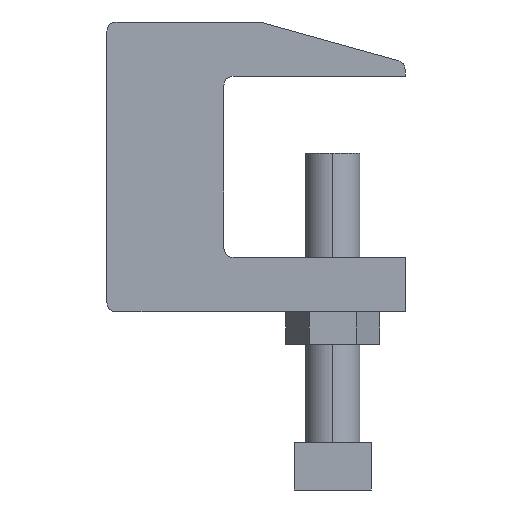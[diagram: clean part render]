
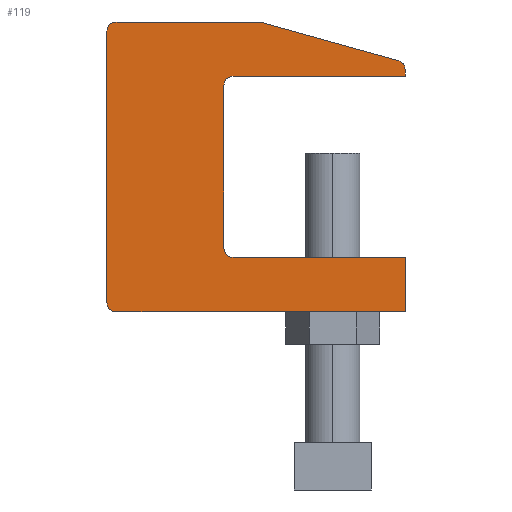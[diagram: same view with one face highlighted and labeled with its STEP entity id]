
A CAD part, front view. The second image highlights one B-rep face of the part: STEP entity #119.
In plain terms, the highlighted planar face has unit normal (0, -1, 0).
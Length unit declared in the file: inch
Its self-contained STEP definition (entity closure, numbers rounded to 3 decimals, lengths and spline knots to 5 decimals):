
#119=ADVANCED_FACE('',(#258),#259,.T.);
#258=FACE_OUTER_BOUND('',#458,.T.);
#259=PLANE('',#459);
#458=EDGE_LOOP('',(#791,#792,#793,#794,#795,#796,#797,#798,#799,#800,#801,#802,#803,#804,#805));
#459=AXIS2_PLACEMENT_3D('',#806,#807,#808);
#791=ORIENTED_EDGE('',*,*,#1070,.F.);
#792=ORIENTED_EDGE('',*,*,#1088,.F.);
#793=ORIENTED_EDGE('',*,*,#1137,.F.);
#794=ORIENTED_EDGE('',*,*,#1092,.F.);
#795=ORIENTED_EDGE('',*,*,#1138,.F.);
#796=ORIENTED_EDGE('',*,*,#1139,.F.);
#797=ORIENTED_EDGE('',*,*,#1140,.F.);
#798=ORIENTED_EDGE('',*,*,#1141,.F.);
#799=ORIENTED_EDGE('',*,*,#1142,.F.);
#800=ORIENTED_EDGE('',*,*,#1143,.F.);
#801=ORIENTED_EDGE('',*,*,#1124,.F.);
#802=ORIENTED_EDGE('',*,*,#1144,.F.);
#803=ORIENTED_EDGE('',*,*,#1145,.F.);
#804=ORIENTED_EDGE('',*,*,#1146,.F.);
#805=ORIENTED_EDGE('',*,*,#1147,.F.);
#806=CARTESIAN_POINT('',(0.8918,0.,0.9651));
#807=DIRECTION('',(0.0,-1.0,0.0));
#808=DIRECTION('',(1.0,0.0,0.0));
#1070=EDGE_CURVE('',#1244,#1245,#1246,.T.);
#1088=EDGE_CURVE('',#1278,#1244,#1279,.T.);
#1092=EDGE_CURVE('',#1284,#1285,#1286,.T.);
#1124=EDGE_CURVE('',#1337,#1338,#1339,.T.);
#1137=EDGE_CURVE('',#1285,#1278,#1359,.T.);
#1138=EDGE_CURVE('',#1360,#1284,#1361,.T.);
#1139=EDGE_CURVE('',#1362,#1360,#1363,.T.);
#1140=EDGE_CURVE('',#1364,#1362,#1365,.T.);
#1141=EDGE_CURVE('',#1366,#1364,#1367,.T.);
#1142=EDGE_CURVE('',#1368,#1366,#1369,.T.);
#1143=EDGE_CURVE('',#1338,#1368,#1370,.T.);
#1144=EDGE_CURVE('',#1371,#1337,#1372,.T.);
#1145=EDGE_CURVE('',#1373,#1371,#1374,.T.);
#1146=EDGE_CURVE('',#1375,#1373,#1376,.T.);
#1147=EDGE_CURVE('',#1245,#1375,#1377,.T.);
#1244=VERTEX_POINT('',#1500);
#1245=VERTEX_POINT('',#1501);
#1246=LINE('',#1502,#1503);
#1278=VERTEX_POINT('',#1574);
#1279=LINE('',#1575,#1576);
#1284=VERTEX_POINT('',#1583);
#1285=VERTEX_POINT('',#1584);
#1286=B_SPLINE_CURVE_WITH_KNOTS('',3,(#1585,#1586,#1587,#1588),.UNSPECIFIED.,.F.,.F.,(4,4),(-1.0,-0.0),.UNSPECIFIED.);
#1337=VERTEX_POINT('',#1679);
#1338=VERTEX_POINT('',#1680);
#1339=CIRCLE('',#1681,0.06259);
#1359=LINE('',#1709,#1710);
#1360=VERTEX_POINT('',#1711);
#1361=LINE('',#1712,#1713);
#1362=VERTEX_POINT('',#1714);
#1363=B_SPLINE_CURVE_WITH_KNOTS('',3,(#1715,#1716,#1717,#1718),.UNSPECIFIED.,.F.,.F.,(4,4),(-1.0,-0.0),.UNSPECIFIED.);
#1364=VERTEX_POINT('',#1719);
#1365=LINE('',#1720,#1721);
#1366=VERTEX_POINT('',#1722);
#1367=LINE('',#1723,#1724);
#1368=VERTEX_POINT('',#1725);
#1369=B_SPLINE_CURVE_WITH_KNOTS('',3,(#1726,#1727,#1728,#1729),.UNSPECIFIED.,.F.,.F.,(4,4),(-1.0,-0.0),.UNSPECIFIED.);
#1370=LINE('',#1730,#1731);
#1371=VERTEX_POINT('',#1732);
#1372=LINE('',#1733,#1734);
#1373=VERTEX_POINT('',#1735);
#1374=B_SPLINE_CURVE_WITH_KNOTS('',3,(#1736,#1737,#1738,#1739),.UNSPECIFIED.,.F.,.F.,(4,4),(-1.0,-0.0),.UNSPECIFIED.);
#1375=VERTEX_POINT('',#1740);
#1376=LINE('',#1741,#1742);
#1377=B_SPLINE_CURVE_WITH_KNOTS('',3,(#1743,#1744,#1745,#1746),.UNSPECIFIED.,.F.,.F.,(4,4),(-1.0,-0.0),.UNSPECIFIED.);
#1500=CARTESIAN_POINT('',(1.99552,0.,0.0));
#1501=CARTESIAN_POINT('',(0.0,0.,0.0));
#1502=CARTESIAN_POINT('',(0.0,0.,0.0));
#1503=VECTOR('',#1960,1.0);
#1574=CARTESIAN_POINT('',(1.99552,0.,0.375));
#1575=CARTESIAN_POINT('',(1.99552,0.,0.0));
#1576=VECTOR('',#1964,1.0);
#1583=CARTESIAN_POINT('',(0.74551,0.,0.4375));
#1584=CARTESIAN_POINT('',(0.80801,0.,0.375));
#1585=CARTESIAN_POINT('',(0.74551,0.,0.4375));
#1586=CARTESIAN_POINT('',(0.74551,0.,0.40298));
#1587=CARTESIAN_POINT('',(0.77349,0.,0.375));
#1588=CARTESIAN_POINT('',(0.80801,0.,0.375));
#1679=CARTESIAN_POINT('',(0.98597,0.,2.0));
#1680=CARTESIAN_POINT('',(1.00462,0.,1.99716));
#1681=AXIS2_PLACEMENT_3D('',#1983,#1984,#1985);
#1709=CARTESIAN_POINT('',(1.99552,0.,0.375));
#1710=VECTOR('',#1997,1.0);
#1711=CARTESIAN_POINT('',(0.74551,0.,1.5625));
#1712=CARTESIAN_POINT('',(0.74551,0.,0.4375));
#1713=VECTOR('',#1998,1.0);
#1714=CARTESIAN_POINT('',(0.80801,0.,1.625));
#1715=CARTESIAN_POINT('',(0.80801,0.,1.625));
#1716=CARTESIAN_POINT('',(0.77349,0.,1.625));
#1717=CARTESIAN_POINT('',(0.74551,0.,1.59702));
#1718=CARTESIAN_POINT('',(0.74551,0.,1.5625));
#1719=CARTESIAN_POINT('',(1.99552,0.,1.625));
#1720=CARTESIAN_POINT('',(0.80801,0.,1.625));
#1721=VECTOR('',#1999,1.0);
#1722=CARTESIAN_POINT('',(1.99552,0.,1.6728));
#1723=CARTESIAN_POINT('',(1.99552,0.,1.625));
#1724=VECTOR('',#2000,1.0);
#1725=CARTESIAN_POINT('',(1.95165,0.,1.73246));
#1726=CARTESIAN_POINT('',(1.95165,0.,1.73246));
#1727=CARTESIAN_POINT('',(1.97775,0.,1.7243));
#1728=CARTESIAN_POINT('',(1.99552,0.,1.70014));
#1729=CARTESIAN_POINT('',(1.99552,0.,1.6728));
#1730=CARTESIAN_POINT('',(1.95165,0.,1.73246));
#1731=VECTOR('',#2001,1.0);
#1732=CARTESIAN_POINT('',(0.0,0.,2.0));
#1733=CARTESIAN_POINT('',(0.98597,0.,2.0));
#1734=VECTOR('',#2002,1.0);
#1735=CARTESIAN_POINT('',(-0.0625,0.,1.9375));
#1736=CARTESIAN_POINT('',(-0.0625,0.,1.9375));
#1737=CARTESIAN_POINT('',(-0.0625,0.,1.97202));
#1738=CARTESIAN_POINT('',(-0.03452,0.,2.0));
#1739=CARTESIAN_POINT('',(0.0,0.,2.0));
#1740=CARTESIAN_POINT('',(-0.0625,0.,0.0625));
#1741=CARTESIAN_POINT('',(-0.0625,0.,1.9375));
#1742=VECTOR('',#2003,1.0);
#1743=CARTESIAN_POINT('',(0.0,0.,0.0));
#1744=CARTESIAN_POINT('',(-0.03452,0.,0.0));
#1745=CARTESIAN_POINT('',(-0.0625,0.,0.02798));
#1746=CARTESIAN_POINT('',(-0.0625,0.,0.0625));
#1960=DIRECTION('',(-1.0,0.0,-0.0));
#1964=DIRECTION('',(-0.0,0.0,-1.0));
#1983=CARTESIAN_POINT('',(0.98597,0.,1.93741));
#1984=DIRECTION('',(-0.0,1.0,0.0));
#1985=DIRECTION('',(0.298,0.0,0.955));
#1997=DIRECTION('',(1.0,0.0,0.0));
#1998=DIRECTION('',(-0.0,0.0,-1.0));
#1999=DIRECTION('',(-1.0,0.0,-0.0));
#2000=DIRECTION('',(-0.0,0.0,-1.0));
#2001=DIRECTION('',(0.963,0.0,-0.269));
#2002=DIRECTION('',(1.0,0.0,0.0));
#2003=DIRECTION('',(0.0,0.0,1.0));
